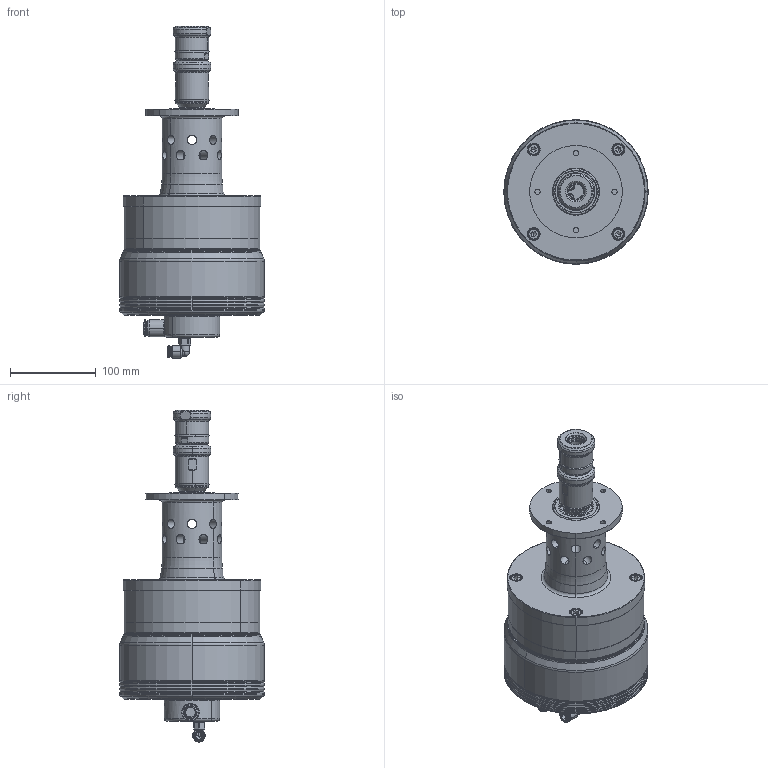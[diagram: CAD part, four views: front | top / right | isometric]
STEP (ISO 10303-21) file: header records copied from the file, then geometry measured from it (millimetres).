
FILE_DESCRIPTION (( 'STEP AP214' ), '1' );
FILE_NAME ('Rührwerksantrieb eco-Seal 3600 INOX mit Getriebe und Schnellwechselsystem_6615+5050.STEP', '2024-04-10T16:05:07', ( '' ), ( '' ), 'SwSTEP 2.0', 'SolidWorks 2022', '' );
FILE_SCHEMA (( 'AUTOMOTIVE_DESIGN' ));
Length unit declared in the file: millimetre
Products named in the file (1): Rührwerksantrieb eco-Seal 3600 INOX mit Getriebe und Schnellwechselsystem_6615+5050
Bounding box: 169 x 169 x 388.25 mm (x, y, z)
Surface area: 205303.6 mm2 (no closed solid volume)
Topology: 0 solids, 42 shells, 458 faces, 1247 edges, 823 vertices
Faces by surface type: cylinder 151, torus 118, cone 99, plane 85, bspline 4, sphere 1
Entity records: 25815 total; most frequent: CARTESIAN_POINT 9348, DIRECTION 2515, ORIENTED_EDGE 2108, EDGE_CURVE 1239, AXIS2_PLACEMENT_3D 1070, VERTEX_POINT 823, CIRCLE 615, EDGE_LOOP 541
